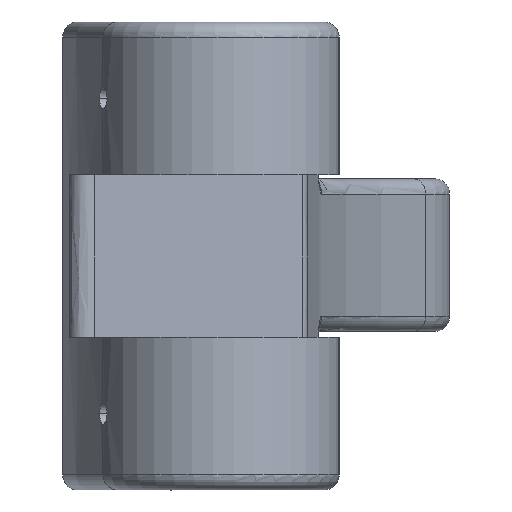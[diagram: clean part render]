
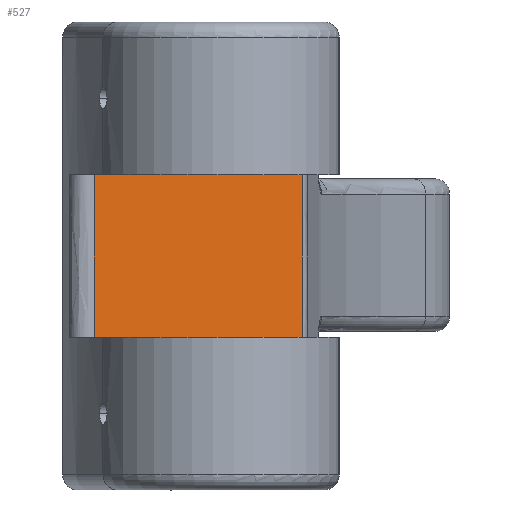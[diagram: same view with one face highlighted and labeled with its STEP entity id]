
A CAD part, left-side view. The second image highlights one B-rep face of the part: STEP entity #527.
In plain terms, the highlighted planar face has unit normal (-0.751, -0.66, -0.009).
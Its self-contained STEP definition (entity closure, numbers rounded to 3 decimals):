
#34 = DIRECTION ( 'NONE',  ( 0.66, -0.751, 0. ) ) ;
#44 = CARTESIAN_POINT ( 'NONE',  ( 215.868, -93.125, 51.312 ) ) ;
#170 = VERTEX_POINT ( 'NONE', #542 ) ;
#253 = ORIENTED_EDGE ( 'NONE', *, *, #1014, .T. ) ;
#270 = ORIENTED_EDGE ( 'NONE', *, *, #3098, .F. ) ;
#346 = CARTESIAN_POINT ( 'NONE',  ( 17.721, 132.235, 62.001 ) ) ;
#386 = CARTESIAN_POINT ( 'NONE',  ( 16.081, 130.795, 292.588 ) ) ;
#406 = PLANE ( 'NONE',  #1700 ) ;
#484 = DIRECTION ( 'NONE',  ( 0.751, 0.66, 0.009 ) ) ;
#527 = ADVANCED_FACE ( 'NONE', ( #685 ), #406, .F. ) ;
#542 = CARTESIAN_POINT ( 'NONE',  ( 215.719, -93.109, 62.001 ) ) ;
#685 = FACE_OUTER_BOUND ( 'NONE', #3142, .T. ) ;
#697 = LINE ( 'NONE', #2199, #2706 ) ;
#731 = LINE ( 'NONE', #346, #2040 ) ;
#992 = DIRECTION ( 'NONE',  ( 0.66, -0.751, 0. ) ) ;
#1014 = EDGE_CURVE ( 'NONE', #1882, #2918, #1250, .T. ) ;
#1250 =( BOUNDED_CURVE ( )  B_SPLINE_CURVE ( 3, ( #3952, #2362, #1442, #1463 ),
 .UNSPECIFIED., .F., .T. ) 
 B_SPLINE_CURVE_WITH_KNOTS ( ( 4, 4 ),
 ( 2.145, 2.147 ),
 .UNSPECIFIED. ) 
 CURVE ( )  GEOMETRIC_REPRESENTATION_ITEM ( )  RATIONAL_B_SPLINE_CURVE ( ( 1., 1., 1., 1. ) ) 
 REPRESENTATION_ITEM ( '' )  );
#1442 = CARTESIAN_POINT ( 'NONE',  ( 180.119, -52.286, 40.661 ) ) ;
#1463 = CARTESIAN_POINT ( 'NONE',  ( 180.238, -52.269, 30.003 ) ) ;
#1543 = EDGE_CURVE ( 'NONE', #1868, #170, #2956, .T. ) ;
#1700 = AXIS2_PLACEMENT_3D ( 'NONE', #386, #484, #1768 ) ;
#1768 = DIRECTION ( 'NONE',  ( 0.189, -0.228, 0.955 ) ) ;
#1868 = VERTEX_POINT ( 'NONE', #3265 ) ;
#1882 = VERTEX_POINT ( 'NONE', #3283 ) ;
#1995 = CARTESIAN_POINT ( 'NONE',  ( 216.016, -93.141, 40.647 ) ) ;
#2040 = VECTOR ( 'NONE', #34, 1000. ) ;
#2199 = CARTESIAN_POINT ( 'NONE',  ( 184.432, -57.042, 30.003 ) ) ;
#2362 = CARTESIAN_POINT ( 'NONE',  ( 180., -52.304, 51.327 ) ) ;
#2396 = ORIENTED_EDGE ( 'NONE', *, *, #3948, .T. ) ;
#2706 = VECTOR ( 'NONE', #992, 1000. ) ;
#2888 = ORIENTED_EDGE ( 'NONE', *, *, #1543, .T. ) ;
#2918 = VERTEX_POINT ( 'NONE', #3387 ) ;
#2956 =( BOUNDED_CURVE ( )  B_SPLINE_CURVE ( 3, ( #3251, #1995, #44, #3943 ),
 .UNSPECIFIED., .F., .T. ) 
 B_SPLINE_CURVE_WITH_KNOTS ( ( 4, 4 ),
 ( 3.881, 3.885 ),
 .UNSPECIFIED. ) 
 CURVE ( )  GEOMETRIC_REPRESENTATION_ITEM ( )  RATIONAL_B_SPLINE_CURVE ( ( 1., 1., 1., 1. ) ) 
 REPRESENTATION_ITEM ( '' )  );
#3098 = EDGE_CURVE ( 'NONE', #1882, #170, #731, .T. ) ;
#3142 = EDGE_LOOP ( 'NONE', ( #2396, #2888, #270, #253 ) ) ;
#3251 = CARTESIAN_POINT ( 'NONE',  ( 216.165, -93.158, 30.003 ) ) ;
#3265 = CARTESIAN_POINT ( 'NONE',  ( 216.165, -93.158, 30.003 ) ) ;
#3283 = CARTESIAN_POINT ( 'NONE',  ( 179.881, -52.321, 62.001 ) ) ;
#3387 = CARTESIAN_POINT ( 'NONE',  ( 180.238, -52.269, 30.003 ) ) ;
#3943 = CARTESIAN_POINT ( 'NONE',  ( 215.719, -93.109, 62.001 ) ) ;
#3948 = EDGE_CURVE ( 'NONE', #2918, #1868, #697, .T. ) ;
#3952 = CARTESIAN_POINT ( 'NONE',  ( 179.881, -52.321, 62.001 ) ) ;
